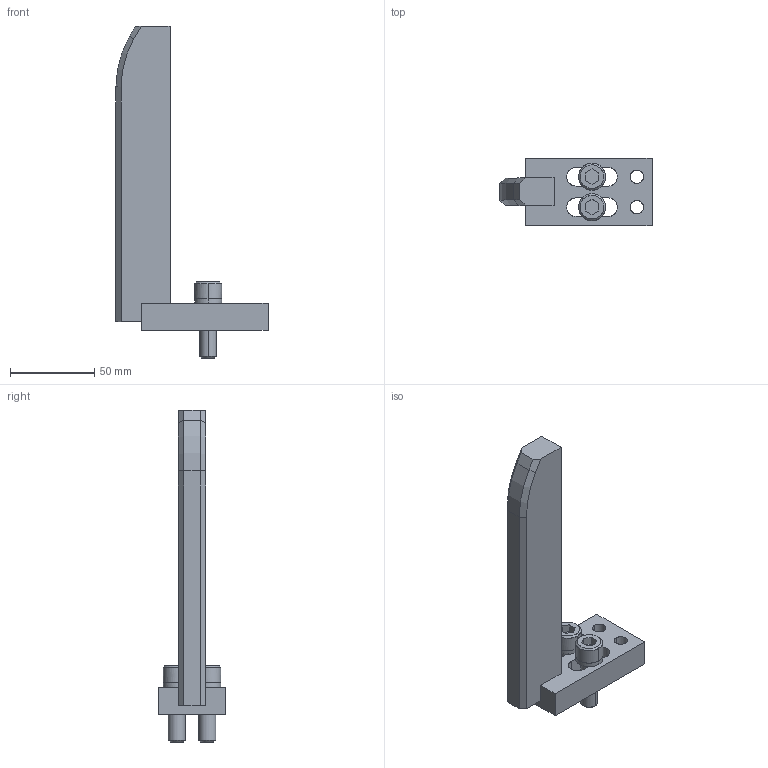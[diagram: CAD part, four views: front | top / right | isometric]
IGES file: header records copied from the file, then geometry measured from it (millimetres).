
Global section: file name: E:\UnigraphicsGraphicData\MISUMI_PRESS-PARTS\IGES\3d_ngnbc-180-20-m10_01539_r00.igs; native system: NX V5.0; preprocessor: UGS NX IGES V5.0; author: MISUMI; date: 20110105.162051; units: millimetre
Bounding box: 90 x 40 x 196.5 mm (x, y, z)
Surface area: 33989.3 mm2 (no closed solid volume)
Topology: 0 solids, 0 shells, 104 faces, 665 edges, 665 vertices
Faces by surface type: bspline 104
